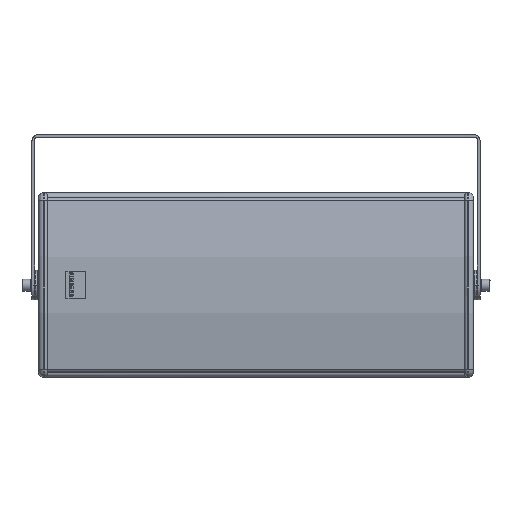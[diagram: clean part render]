
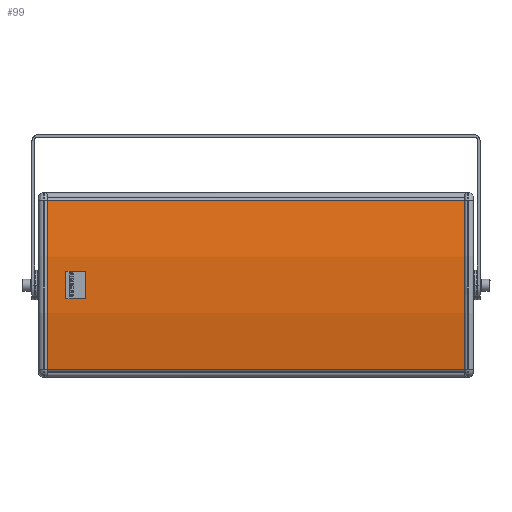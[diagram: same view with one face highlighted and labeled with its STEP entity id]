
A CAD part, top view. The second image highlights one B-rep face of the part: STEP entity #99.
In plain terms, the highlighted cylindrical face has radius 561.105 mm (diameter 1122.21 mm), a partial arc.
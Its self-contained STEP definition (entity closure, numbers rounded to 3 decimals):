
#71 = VERTEX_POINT ( 'NONE', #538 ) ;
#84 = VERTEX_POINT ( 'NONE', #522 ) ;
#85 = ORIENTED_EDGE ( 'NONE', *, *, #87, .F. ) ;
#86 = ORIENTED_EDGE ( 'NONE', *, *, #17404, .F. ) ;
#87 = EDGE_CURVE ( 'NONE', #84, #88, #521, .T. ) ;
#88 = VERTEX_POINT ( 'NONE', #584 ) ;
#94 = EDGE_CURVE ( 'NONE', #71, #88, #574, .T. ) ;
#95 = ORIENTED_EDGE ( 'NONE', *, *, #94, .T. ) ;
#99 = ADVANCED_FACE ( 'NONE', ( #566 ), #562, .T. ) ;
#101 = EDGE_LOOP ( 'NONE', ( #95, #85, #86, #17390 ) ) ;
#188 = VERTEX_POINT ( 'NONE', #773 ) ;
#521 = LINE ( 'NONE', #587, #586 ) ;
#522 = CARTESIAN_POINT ( 'NONE',  ( 600.535, 17.513, -239.067 ) ) ;
#538 = CARTESIAN_POINT ( 'NONE',  ( 34.535, 17.563, -10.943 ) ) ;
#558 = DIRECTION ( 'NONE',  ( 0., 0., -1. ) ) ;
#559 = DIRECTION ( 'NONE',  ( 1., 0., 0. ) ) ;
#560 = AXIS2_PLACEMENT_3D ( 'NONE', #561, #559, #558 ) ;
#561 = CARTESIAN_POINT ( 'NONE',  ( 34.535, 566.928, -125.124 ) ) ;
#562 = CYLINDRICAL_SURFACE ( 'NONE', #560, 561.105 ) ;
#566 = FACE_OUTER_BOUND ( 'NONE', #101, .T. ) ;
#570 = DIRECTION ( 'NONE',  ( 0., 0., -1. ) ) ;
#571 = DIRECTION ( 'NONE',  ( 1., 0., 0. ) ) ;
#572 = CARTESIAN_POINT ( 'NONE',  ( 34.535, 566.928, -125.124 ) ) ;
#573 = AXIS2_PLACEMENT_3D ( 'NONE', #572, #571, #570 ) ;
#574 = CIRCLE ( 'NONE', #573, 561.105 ) ;
#584 = CARTESIAN_POINT ( 'NONE',  ( 34.535, 17.513, -239.067 ) ) ;
#585 = DIRECTION ( 'NONE',  ( -1., 0., 0. ) ) ;
#586 = VECTOR ( 'NONE', #585, 1000. ) ;
#587 = CARTESIAN_POINT ( 'NONE',  ( 34.535, 17.513, -239.067 ) ) ;
#773 = CARTESIAN_POINT ( 'NONE',  ( 600.535, 17.563, -10.943 ) ) ;
#11653 = DIRECTION ( 'NONE',  ( 1., 0., 0. ) ) ;
#11654 = VECTOR ( 'NONE', #11653, 1000. ) ;
#11655 = CARTESIAN_POINT ( 'NONE',  ( 34.535, 17.563, -10.943 ) ) ;
#11656 = LINE ( 'NONE', #11655, #11654 ) ;
#11709 = DIRECTION ( 'NONE',  ( 0., 0., -1. ) ) ;
#11710 = DIRECTION ( 'NONE',  ( 1., 0., 0. ) ) ;
#11711 = CARTESIAN_POINT ( 'NONE',  ( 600.535, 566.928, -125.124 ) ) ;
#11712 = AXIS2_PLACEMENT_3D ( 'NONE', #11711, #11710, #11709 ) ;
#11713 = CIRCLE ( 'NONE', #11712, 561.105 ) ;
#17375 = EDGE_CURVE ( 'NONE', #71, #188, #11656, .T. ) ;
#17390 = ORIENTED_EDGE ( 'NONE', *, *, #17375, .F. ) ;
#17404 = EDGE_CURVE ( 'NONE', #188, #84, #11713, .T. ) ;
